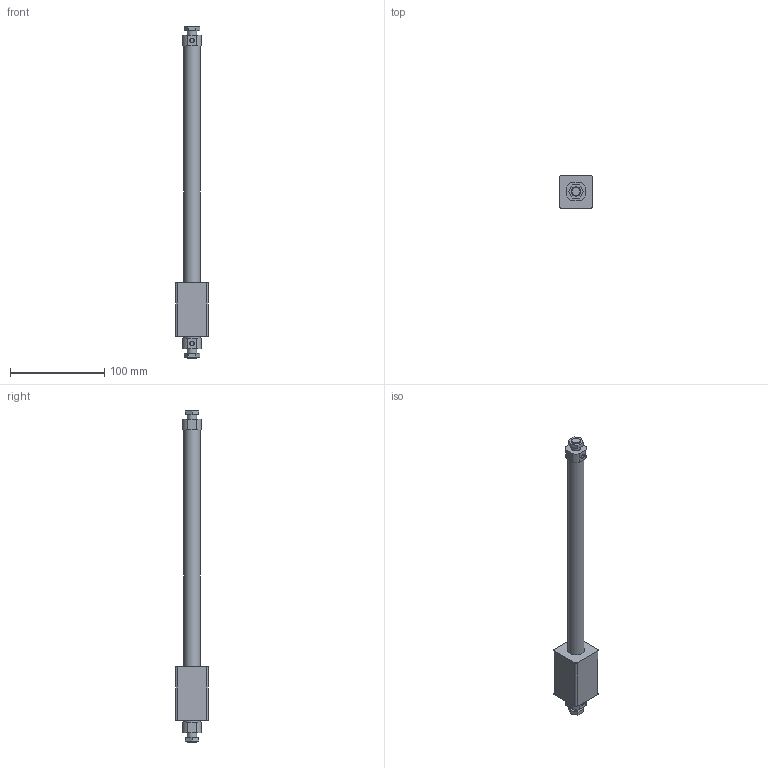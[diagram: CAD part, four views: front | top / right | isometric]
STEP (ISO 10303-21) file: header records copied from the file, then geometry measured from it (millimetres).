
FILE_DESCRIPTION( ( 'STEP AP214' ), '1' );
FILE_NAME( 'C:/Users/EMC02301/Desktop/RU0638 ESW图纸/ESW16x250.stp', '2026-07-27T11:22:29', ( 'License CC BY-ND 4.0' ), ( 'CADENAS' ), ' ', 'PARTsolutions', ' ' );
FILE_SCHEMA( ( 'AUTOMOTIVE_DESIGN { 1 0 10303 214 1 1 1 1 }' ) );
Length unit declared in the file: millimetre
Products named in the file (3): ESW16x250(0); _ESW16x250(0_dummy).boby; _ESW16x250(0_dummy).rod
Assembly tree (2 placements, depth 2):
  ESW16x250(0)
    _ESW16x250(0_dummy).boby
    _ESW16x250(0_dummy).rod
Bounding box: 35 x 35 x 353 mm (x, y, z)
Volume: 144116.5 mm3; surface area: 34354.8 mm2
Topology: 2 solids, 2 shells, 80 faces, 176 edges, 114 vertices
Faces by surface type: plane 42, cylinder 24, cone 14
Full cylindrical faces by diameter (mm): 3.242 x4, 4.134 x2, 10 x4, 18 x2
Entity records: 2734 total; most frequent: DIRECTION 374, CARTESIAN_POINT 339, ORIENTED_EDGE 292, EDGE_CURVE 146, AXIS2_PLACEMENT_3D 145, EDGE_LOOP 122, VERTEX_POINT 110, FACE_OUTER_BOUND 92
